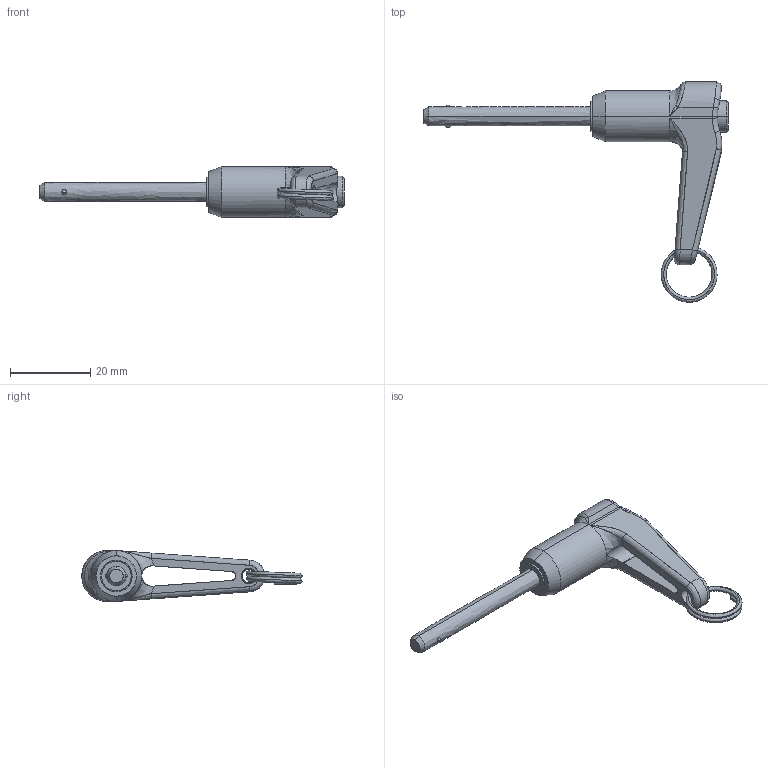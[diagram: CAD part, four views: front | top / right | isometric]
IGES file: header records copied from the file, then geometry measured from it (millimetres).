
Start section: SolidWorks IGES file using analytic representation for surfaces
Global section: file name: C:\Documents and Settings\IANO\My Documents\Wix and Auto CAD Work\CAD Models\Parametric Models\Wix Models\30000\33620_v2\33620_v2_20160606_IGES\33620.A014.igs; native system: SolidWorks 2009; preprocessor: SolidWorks 2009; author: IANO; date: 160615.125632; units: inch
Bounding box: 76.03 x 55.09 x 12.7 mm (x, y, z)
Surface area: 5299.3 mm2 (no closed solid volume)
Topology: 0 solids, 0 shells, 83 faces, 1168 edges, 1166 vertices
Faces by surface type: bspline 53, revolution 30
